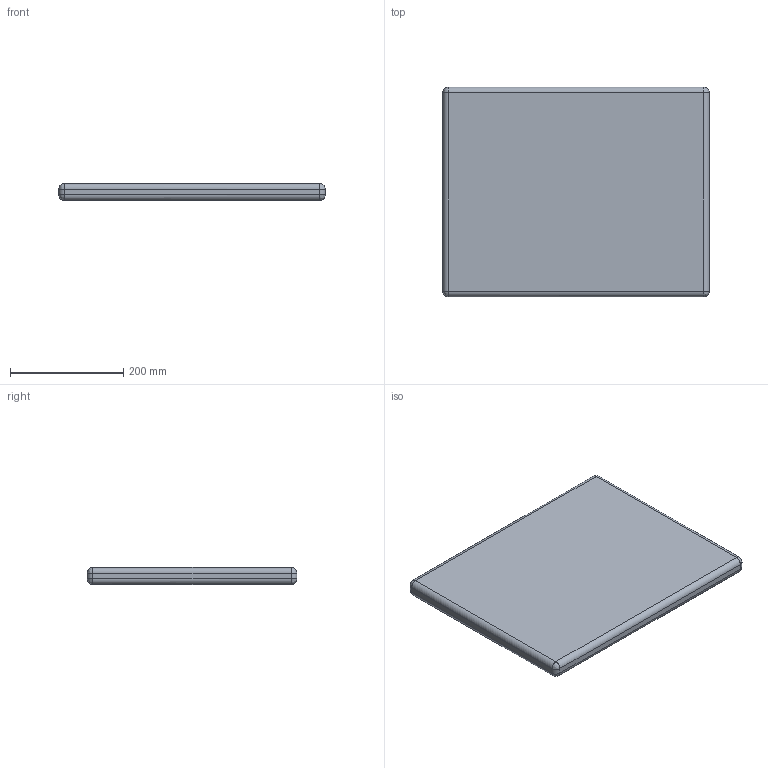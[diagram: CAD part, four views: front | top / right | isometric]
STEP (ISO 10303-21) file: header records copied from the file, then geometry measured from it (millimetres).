
FILE_DESCRIPTION(/* description */ (''),/* implementation_level */ '2;1');
FILE_NAME(/* name */ 'FRAMA_01-Cushion Armrest Chair-3D',/* time_stamp */ '2025-11-11T14:14:46+01:00',/* author */ (''),/* organization */ (''),/* preprocessor_version */ 'ST-DEVELOPER v16.5',/* originating_system */ 'Rhino 7.38',/* authorisation */ '');
FILE_SCHEMA (('CONFIG_CONTROL_DESIGN'));
Length unit declared in the file: millimetre
Products named in the file (1): Document
Bounding box: 470 x 370 x 30 mm (x, y, z)
Volume: 5143656.5 mm3; surface area: 383150.4 mm2
Topology: 1 solids, 1 shells, 26 faces, 48 edges, 24 vertices
Faces by surface type: cylinder 12, bspline 8, plane 6
Entity records: 710 total; most frequent: CARTESIAN_POINT 294, ORIENTED_EDGE 96, EDGE_CURVE 48, ADVANCED_FACE 26, FACE_OUTER_BOUND 26, EDGE_LOOP 26, B_SPLINE_CURVE_WITH_KNOTS 24, VERTEX_POINT 24
